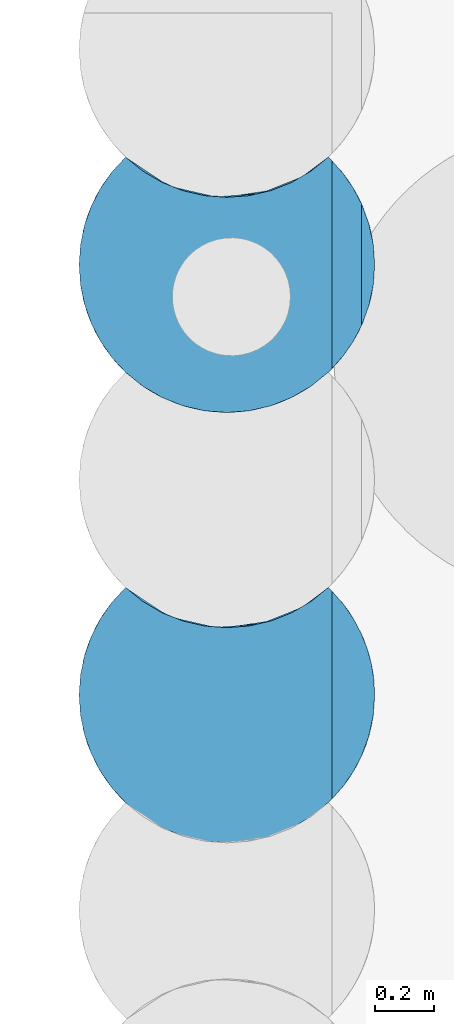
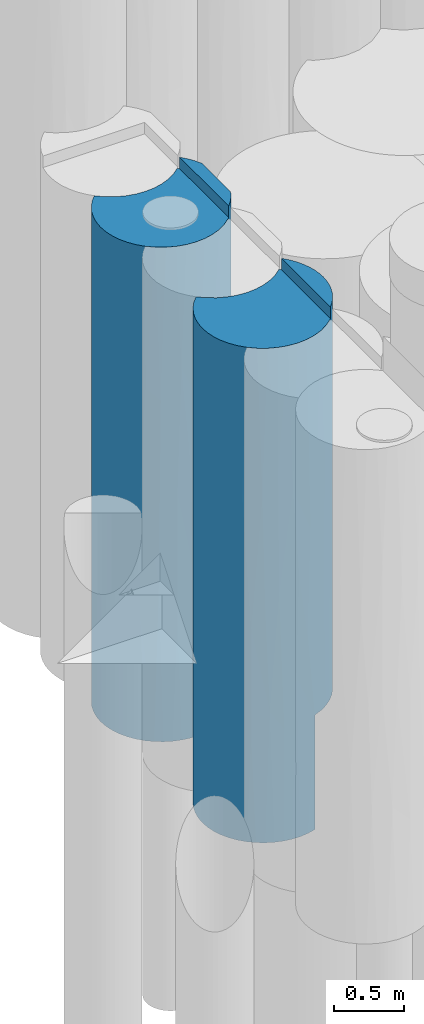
# One storey, part 17 of 104: 2 piles.
"""IFC2X3 building model written with IfcOpenShell, lengths in millimetres."""

from ifc_helpers import new_model, entity, si_unit, converted_unit, derived_unit, direction, frame, origin, place, context, subcontext, project, spatial, faceted_brep, source, transform, mapped, material, element, save


model = new_model("IFC2X3")

# Units and contexts
model_context = context("Model", 3, precision=0.01, world=origin(), true_north=direction((6.12303176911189e-17, 1.0)))
body_context = subcontext(model_context, "Body", "Model", "MODEL_VIEW")
ifc_project = project(units=[si_unit("LENGTHUNIT", "METRE", prefix="MILLI"), si_unit("AREAUNIT", "SQUARE_METRE", prefix="MILLI"), si_unit("VOLUMEUNIT", "CUBIC_METRE"), converted_unit("PLANEANGLEUNIT", "DEGREE", entity("IfcRatioMeasure", 0.0174532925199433), si_unit("PLANEANGLEUNIT", "RADIAN"), dimensions=[0, 0, 0, 0, 0, 0, 0]), si_unit("MASSUNIT", "GRAM", prefix="KILO"), derived_unit("MASSDENSITYUNIT", [(si_unit("MASSUNIT", "GRAM", prefix="KILO"), 1), (si_unit("LENGTHUNIT", "METRE"), -3)]), derived_unit("MOMENTOFINERTIAUNIT", [(si_unit("LENGTHUNIT", "METRE"), 4)]), si_unit("TIMEUNIT", "SECOND"), si_unit("FREQUENCYUNIT", "HERTZ"), si_unit("THERMODYNAMICTEMPERATUREUNIT", "DEGREE_CELSIUS"), derived_unit("THERMALTRANSMITTANCEUNIT", [(si_unit("MASSUNIT", "GRAM", prefix="KILO"), 1), (si_unit("THERMODYNAMICTEMPERATUREUNIT", "KELVIN"), -1), (si_unit("TIMEUNIT", "SECOND"), -3)]), derived_unit("VOLUMETRICFLOWRATEUNIT", [(si_unit("LENGTHUNIT", "METRE"), 3), (si_unit("TIMEUNIT", "SECOND"), -1)]), si_unit("ELECTRICCURRENTUNIT", "AMPERE"), si_unit("ELECTRICVOLTAGEUNIT", "VOLT"), si_unit("POWERUNIT", "WATT"), si_unit("FORCEUNIT", "NEWTON", prefix="KILO"), si_unit("ILLUMINANCEUNIT", "LUX"), si_unit("LUMINOUSFLUXUNIT", "LUMEN"), si_unit("LUMINOUSINTENSITYUNIT", "CANDELA"), derived_unit("USERDEFINED", [(si_unit("MASSUNIT", "GRAM", prefix="KILO"), -1), (si_unit("LENGTHUNIT", "METRE"), -2), (si_unit("TIMEUNIT", "SECOND"), 3), (si_unit("LUMINOUSFLUXUNIT", "LUMEN"), 1)]), derived_unit("LINEARVELOCITYUNIT", [(si_unit("LENGTHUNIT", "METRE"), 1), (si_unit("TIMEUNIT", "SECOND"), -1)]), si_unit("PRESSUREUNIT", "PASCAL"), derived_unit("USERDEFINED", [(si_unit("LENGTHUNIT", "METRE"), -2), (si_unit("MASSUNIT", "GRAM", prefix="KILO"), 1), (si_unit("TIMEUNIT", "SECOND"), -2)]), derived_unit("LINEARFORCEUNIT", [(si_unit("MASSUNIT", "GRAM", prefix="KILO"), 1), (si_unit("LENGTHUNIT", "METRE"), 1), (si_unit("TIMEUNIT", "SECOND"), -2), (si_unit("LENGTHUNIT", "METRE"), -1)]), derived_unit("PLANARFORCEUNIT", [(si_unit("MASSUNIT", "GRAM", prefix="KILO"), 1), (si_unit("LENGTHUNIT", "METRE"), 1), (si_unit("TIMEUNIT", "SECOND"), -2), (si_unit("LENGTHUNIT", "METRE"), -2)])], contexts=[model_context])

# Site, building, storey
site_placement = place(None, origin())
site = spatial("IfcSite", under=ifc_project, at=site_placement, Name="Theater aan de Parade", CompositionType="ELEMENT")
building_placement = place(site_placement, origin())
building = spatial("IfcBuilding", under=site, at=building_placement, Name="Theater aan de Parade", CompositionType="ELEMENT")
storey_placement = place(building_placement, frame((0.0, 0.0, -5520.0)))
storey = spatial("IfcBuildingStorey", under=building, at=storey_placement, Name="-2 kelder", CompositionType="ELEMENT", Elevation=-5520.0)

# Piles
ifc_material = material(Name="00_PBT_MAT_grout")
shared_shape_1 = source(origin(), body_context, "Body", "Brep", [
    faceted_brep([(267.323279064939, 787.875187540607, 0.0), (328.369525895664, 760.56132803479, 0.0), (392.511444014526, 741.63962012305, 0.0), (458.603757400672, 731.44697136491, 0.0), (525.466685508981, 730.165441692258, 0.0), (591.906634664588, 737.819044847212, 0.0), (656.737142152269, 754.27327589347, 0.0), (656.737142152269, 26.2732758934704, 0.0), (591.893916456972, 9.81670940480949, 0.0), (525.446263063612, 2.1644659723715, 0.0), (458.576192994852, 3.44935101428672, 0.0), (392.480890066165, 13.6464515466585, 0.0), (328.341208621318, 32.5717872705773, 0.0), (267.302846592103, 59.886024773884, 0.0), (210.456079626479, 95.1005360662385, 0.0), (158.824861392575, 137.58449553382, 0.0), (112.66511783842, 187.376662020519, 0.0), (73.6828393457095, 242.962424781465, 0.0), (42.5887722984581, 303.320127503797, 0.0), (19.9574025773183, 367.338196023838, 0.0), (6.20806806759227, 433.834531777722, 0.0), (1.5952722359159, 501.595272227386, 0.0), (6.20818208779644, 569.356846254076, 0.0), (19.9555085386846, 635.845553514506, 0.0), (42.5833371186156, 699.857834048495, 0.0), (73.6726367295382, 760.211238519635, 0.0), (112.651085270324, 815.796512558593, 0.0), (158.806707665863, 865.595272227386, 0.0), (210.467388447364, 823.092436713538, 0.0), (996.985169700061, 569.336319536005, 1000.0), (983.239874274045, 635.828194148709, 1000.0), (990.78787753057, 604.990605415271, 2046.74388221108), (956.737142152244, 708.587731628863, 4220.0), (913.164689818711, 785.515356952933, 3409.23226430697), (929.194279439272, 760.745979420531, 4420.0), (981.489086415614, 641.958825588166, 4220.0), (996.543202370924, 572.493413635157, 4220.0), (990.252070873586, 607.49396506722, 3133.13649523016), (946.092881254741, 730.553512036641, 2544.30703933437), (844.383836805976, 865.595272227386, 1780.76895352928), (844.383836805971, 865.595272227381, 2561.53770628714), (844.383836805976, 865.595272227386, 2758.46248732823), (958.757648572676, 704.0861650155, 3361.071600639), (895.702066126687, 809.296157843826, 4420.0), (1001.59527223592, 501.595272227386, 1000.0), (1001.59527223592, 501.595272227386, 3390.76887054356), (956.737142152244, 708.587731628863, 4420.0), (1001.59527223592, 501.595272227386, 2561.53774108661), (960.61285484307, 699.844758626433, 1000.0), (856.737142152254, 853.553014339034, 4320.0), (850.61243060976, 859.627426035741, 4320.0), (844.383836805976, 865.595272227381, 3440.76885314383), (844.383836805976, 865.59527222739, 4320.0), (890.538738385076, 815.797404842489, 1000.0), (844.383836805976, 865.595272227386, 1000.0), (1001.59527223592, 501.595272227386, 4220.0), (929.521362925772, 760.205521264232, 1000.0), (856.737142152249, 853.553014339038, 4420.0), (57.1101078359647, 272.612874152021, 1316.4928070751), (946.091792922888, 272.634919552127, 2497.84558901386), (990.787651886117, 398.198871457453, 2046.72670191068), (990.252071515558, 395.696582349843, 3133.13650739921), (756.716999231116, 71.580267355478, 1930.84616082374), (868.311668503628, 161.714286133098, 1823.04093486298), (847.500261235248, 140.555470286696, 2660.0), (134.89230682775, 161.699795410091, 1057.44780840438), (491.989719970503, 1.68754737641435, 1404.68734990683), (360.094293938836, 22.0356063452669, 1052.824173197), (539.334595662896, 3.02156306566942, 2901.77612704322), (691.143383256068, 38.9166433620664, 2656.11014799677), (670.010199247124, 30.8125066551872, 3485.90902426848), (576.855722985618, 7.29185877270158, 4320.0), (650.397164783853, 24.2505364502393, 4320.0), (996.982304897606, 433.83327793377, 1000.0), (983.235932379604, 367.348207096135, 1000.0), (92.2110047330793, 214.533394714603, 3172.2535251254), (30.1799105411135, 334.959271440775, 3445.3851444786), (30.1799105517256, 334.959271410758, 2516.736242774), (19.9546063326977, 367.348227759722, 4320.0), (6.20831854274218, 433.832700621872, 4320.0), (238.290103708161, 76.5418776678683, 1404.63078403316), (847.500261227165, 140.555470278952, 3490.46984000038), (785.707955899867, 90.1587850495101, 4320.0), (753.846971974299, 69.8904193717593, 3399.95181773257), (112.643720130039, 187.403149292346, 4320.0), (73.6672637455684, 242.988196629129, 4320.0), (787.532221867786, 91.4245018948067, 1000.0), (844.383836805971, 137.595272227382, 1000.0), (890.546344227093, 187.402554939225, 1000.0), (929.522843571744, 242.987473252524, 1000.0), (1.5952722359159, 501.595272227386, 1561.53161059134), (1.5952722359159, 501.595272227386, 2940.77462173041), (674.417605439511, 32.4125347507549, 1827.33519803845), (585.825722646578, 8.74110391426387, 1571.19592302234), (656.73714215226, 26.2732758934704, 1000.0), (42.5805162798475, 303.33924126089, 4320.0), (1.59527223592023, 501.595272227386, 4320.0), (134.892306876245, 161.699795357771, 2159.99586512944), (15.8912046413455, 382.887400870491, 1514.92172740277), (1.5952722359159, 501.595272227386, 2758.45715325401), (389.247683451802, 14.380720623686, 3244.8879435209), (249.34507721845, 69.889540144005, 2978.06322869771), (360.094293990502, 22.0356063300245, 2149.62656965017), (720.547216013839, 52.0843754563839, 4320.0), (163.035278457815, 133.658958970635, 3084.1038830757), (282.645376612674, 52.0833778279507, 4320.0), (217.483581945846, 90.1580990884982, 4320.0), (426.339538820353, 7.29114055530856, 4320.0), (352.796689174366, 24.2495048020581, 4320.0), (501.598192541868, 1.5952722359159, 4320.0), (449.071524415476, 4.36166926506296, 2521.18102248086), (956.73714215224, 294.602812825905, 4220.0), (929.203275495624, 242.459409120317, 4420.0), (925.786159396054, 236.902825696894, 3422.73924696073), (960.609833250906, 303.338789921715, 1000.0), (724.530883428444, 54.0467125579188, 1000.0), (996.54320237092, 430.697130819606, 4220.0), (981.489086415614, 361.231718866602, 4220.0), (844.383836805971, 137.595272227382, 4320.0), (850.591123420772, 143.54234896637, 4320.0), (856.737142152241, 149.637530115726, 4320.0), (72.9794499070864, 244.129785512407, 2273.29113064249), (158.806707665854, 137.595272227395, 4320.0), (895.734515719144, 193.9359529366, 4420.0), (856.737142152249, 149.637530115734, 4420.0), (956.737142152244, 294.602812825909, 4420.0), (297.389215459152, 773.196448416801, 1404.47162504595), (613.937329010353, 742.379445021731, 2653.03150973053), (530.994805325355, 730.460353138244, 2050.76406694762), (463.861374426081, 731.021152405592, 3233.09526452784), (656.737142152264, 754.27327589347, 1000.0), (492.01377186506, 729.687085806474, 1140.51945206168), (619.657892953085, 743.733957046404, 1789.43089182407), (227.11070635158, 811.673960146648, 3337.61357922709), (158.806707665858, 865.595272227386, 2758.4622926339), (158.806707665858, 865.59527222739, 4320.0), (282.655959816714, 780.078223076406, 4320.0), (352.804483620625, 752.247075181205, 4320.0), (317.204383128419, 764.837270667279, 3016.85071920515), (501.595272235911, 729.595272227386, 4320.0), (576.847851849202, 735.290660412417, 4320.0), (613.937328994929, 742.379445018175, 3522.64310373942), (753.834283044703, 797.883005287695, 3166.78787605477), (756.706671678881, 799.574140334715, 2057.42784165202), (425.387004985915, 735.437099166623, 2149.06733909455), (392.465961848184, 741.649790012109, 1269.58220085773), (158.806707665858, 865.595272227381, 1379.23333206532), (158.806707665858, 865.595272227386, 1561.53770736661), (785.695330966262, 818.15006733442, 4320.0), (240.874329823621, 802.951872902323, 2287.63634853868), (426.342692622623, 735.290660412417, 4320.0), (720.534584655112, 780.078223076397, 4320.0), (724.52149740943, 782.042037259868, 1000.0), (650.386060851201, 752.247075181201, 4320.0), (787.521122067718, 819.416764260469, 1000.0), (335.032355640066, 758.154083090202, 2177.10511890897), (217.495213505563, 818.150067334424, 4320.0), (112.651806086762, 815.797404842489, 4320.0), (73.6691815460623, 760.205521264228, 4320.0), (42.5776896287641, 699.844758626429, 4320.0), (19.9506701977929, 635.828194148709, 4320.0), (6.20537477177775, 569.336319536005, 4320.0), (15.4611002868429, 618.529300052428, 1993.01692752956), (30.1816558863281, 668.236210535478, 982.63536132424), (82.1945983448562, 773.814071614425, 2804.88372013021), (57.1024527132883, 730.562810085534, 1803.15273010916), (73.0275224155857, 759.140770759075, 926.606949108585), (30.1762796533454, 668.221000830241, 3003.46839526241)], [[[0, 1, 2, 3, 4, 5, 6, 7, 8, 9, 10, 11, 12, 13, 14, 15, 16, 17, 18, 19, 20, 21, 22, 23, 24, 25, 26, 27, 28]], [[29, 30, 31]], [[32, 33, 34]], [[35, 36, 37]], [[38, 39, 40, 41]], [[35, 37, 42]], [[37, 31, 38]], [[42, 38, 33]], [[33, 43, 34]], [[44, 29, 31]], [[36, 45, 37]], [[46, 32, 34]], [[38, 41, 33]], [[35, 42, 32]], [[31, 47, 44]], [[31, 30, 48]], [[48, 38, 31]], [[31, 37, 47]], [[49, 41, 50]], [[50, 41, 51, 52]], [[53, 54, 39]], [[42, 33, 32]], [[45, 36, 55]], [[38, 48, 56]], [[53, 39, 38]], [[57, 43, 49]], [[33, 49, 43]], [[49, 33, 41]], [[45, 47, 37]], [[53, 38, 56]], [[37, 38, 42]], [[18, 17, 58]], [[59, 60, 61]], [[62, 63, 64]], [[65, 58, 17]], [[10, 66, 67]], [[68, 69, 70]], [[71, 70, 72]], [[19, 18, 58]], [[65, 16, 15]], [[73, 60, 74]], [[67, 12, 11]], [[75, 76, 77]], [[76, 78, 79]], [[66, 10, 9]], [[13, 80, 14]], [[81, 82, 83]], [[13, 12, 67]], [[83, 62, 64]], [[83, 69, 62]], [[80, 13, 67]], [[84, 85, 75]], [[63, 86, 87]], [[63, 88, 89]], [[83, 70, 69]], [[21, 20, 90]], [[79, 91, 76]], [[92, 93, 94]], [[76, 85, 95]], [[77, 76, 91]], [[96, 91, 79]], [[68, 66, 93]], [[80, 97, 65]], [[76, 95, 78]], [[98, 91, 99, 90]], [[75, 85, 76]], [[100, 101, 102]], [[60, 73, 44]], [[103, 70, 83]], [[104, 84, 75]], [[97, 104, 75]], [[100, 105, 101]], [[105, 106, 101]], [[100, 107, 108]], [[14, 80, 65]], [[68, 109, 100]], [[19, 58, 98]], [[110, 68, 100]], [[111, 112, 113]], [[102, 67, 66]], [[68, 92, 69]], [[94, 8, 7]], [[100, 108, 105]], [[93, 9, 8]], [[114, 74, 60]], [[92, 115, 62]], [[104, 97, 101]], [[63, 59, 64]], [[92, 62, 69]], [[62, 86, 63]], [[68, 71, 109]], [[47, 61, 60]], [[80, 101, 97]], [[67, 11, 10]], [[45, 116, 61]], [[89, 114, 59]], [[101, 80, 102]], [[64, 59, 113]], [[115, 86, 62]], [[65, 17, 16]], [[89, 59, 63]], [[117, 61, 116]], [[109, 107, 100]], [[64, 113, 81]], [[59, 61, 113]], [[64, 81, 83]], [[82, 103, 83]], [[44, 47, 60]], [[58, 77, 98]], [[70, 103, 72]], [[118, 81, 119]], [[88, 63, 87]], [[119, 81, 120]], [[71, 68, 70]], [[82, 81, 118]], [[45, 55, 116]], [[61, 111, 113]], [[121, 75, 77]], [[104, 106, 122]], [[65, 15, 14]], [[120, 123, 124]], [[111, 61, 117]], [[120, 81, 123]], [[125, 112, 111]], [[58, 65, 97]], [[59, 114, 60]], [[113, 123, 81]], [[75, 121, 97]], [[19, 98, 20]], [[123, 113, 112]], [[8, 94, 93]], [[100, 102, 110]], [[80, 67, 102]], [[115, 92, 94]], [[68, 93, 92]], [[93, 66, 9]], [[106, 104, 101]], [[84, 104, 122]], [[91, 98, 77]], [[98, 90, 20]], [[77, 58, 121]], [[58, 97, 121]], [[102, 66, 110]], [[66, 68, 110]], [[61, 47, 45]], [[57, 124, 123, 112, 125, 46, 34, 43]], [[126, 0, 28]], [[127, 128, 129]], [[130, 131, 132]], [[133, 134, 135]], [[136, 137, 138]], [[139, 140, 141]], [[142, 143, 127]], [[144, 131, 145]], [[127, 141, 142]], [[145, 131, 3]], [[28, 27, 146, 147]], [[131, 4, 3]], [[143, 40, 39, 54]], [[148, 51, 142]], [[126, 147, 149]], [[136, 138, 133]], [[129, 144, 138]], [[1, 0, 126]], [[150, 129, 137]], [[144, 128, 131]], [[129, 139, 141]], [[128, 132, 131]], [[5, 131, 130]], [[141, 127, 129]], [[144, 129, 128]], [[5, 130, 6]], [[40, 143, 142]], [[149, 133, 138]], [[138, 137, 129]], [[142, 151, 148]], [[127, 143, 132]], [[1, 145, 2]], [[132, 143, 152]], [[150, 139, 129]], [[153, 141, 140]], [[4, 131, 5]], [[154, 152, 143]], [[141, 151, 142]], [[138, 144, 155]], [[133, 156, 136]], [[148, 52, 51]], [[127, 132, 128]], [[153, 151, 141]], [[155, 144, 145]], [[54, 154, 143]], [[147, 126, 28]], [[152, 130, 132]], [[126, 145, 1]], [[2, 145, 3]], [[156, 133, 135]], [[134, 133, 149]], [[134, 149, 147]], [[155, 126, 149]], [[138, 155, 149]], [[126, 155, 145]], [[142, 51, 41, 40]], [[136, 156, 135, 157, 158, 159, 160, 161, 96, 79, 78, 95, 85, 84, 122, 106, 105, 108, 107, 109, 71, 72, 103, 82, 118, 119, 120, 49, 50, 52, 148, 151, 153, 140, 139, 150, 137]], [[57, 49, 120, 124]], [[115, 94, 130, 152, 154, 54, 53, 56, 48, 30, 29, 44, 73, 74, 114, 89, 88, 87, 86]], [[94, 7, 6, 130]], [[157, 135, 134]], [[99, 162, 90]], [[163, 90, 162]], [[163, 24, 23]], [[164, 146, 165]], [[26, 166, 146]], [[134, 164, 157]], [[166, 24, 163]], [[25, 24, 166]], [[90, 163, 22]], [[161, 99, 91, 96]], [[165, 146, 166]], [[157, 164, 158]], [[22, 163, 23]], [[161, 167, 99]], [[99, 167, 162]], [[167, 160, 159]], [[167, 164, 165]], [[22, 21, 90]], [[25, 166, 26]], [[159, 158, 167]], [[163, 165, 166]], [[27, 26, 146]], [[165, 163, 162]], [[165, 162, 167]], [[161, 160, 167]], [[158, 164, 167]], [[164, 134, 147, 146]], [[116, 55, 36, 35, 32, 111, 117]], [[111, 32, 46, 125]]]),
])
pile_1_placement = place(storey_placement, frame((34348.2628578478, 25156.7721311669, -3840.0)))
element("IfcPile", 1, at=pile_1_placement, inside=storey, material=ifc_material, Name="17_PBT_SFO_grondkering_rond:Ø1000 (grondkering)", ObjectType="17_PBT_SFO_grondkering_rond:Ø1000 (grondkering)", PredefinedType="NOTDEFINED", context=body_context, shape_type="MappedRepresentation", body=[
    mapped(shared_shape_1, transform((0.0, 0.0, 0.0), scale=1.0)),
])
shared_shape_2 = source(origin(), body_context, "Body", "Brep", [
    faceted_brep([(267.323279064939, 787.875187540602, 0.0), (328.369525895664, 760.561328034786, 0.0), (392.511444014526, 741.639620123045, 0.0), (458.603757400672, 731.446971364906, 0.0), (525.466685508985, 730.165441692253, 0.0), (591.906634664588, 737.819044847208, 0.0), (656.737142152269, 754.273275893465, 0.0), (656.737142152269, 26.2732758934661, 0.0), (591.893916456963, 9.81670940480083, 0.0), (525.446263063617, 2.16446597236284, 0.0), (458.576192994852, 3.44935101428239, 0.0), (392.48089006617, 13.6464515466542, 0.0), (328.341208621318, 32.571787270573, 0.0), (267.302846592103, 59.886024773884, 0.0), (210.456079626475, 95.1005360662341, 0.0), (158.824861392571, 137.58449553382, 0.0), (112.665117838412, 187.376662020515, 0.0), (73.6828393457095, 242.962424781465, 0.0), (42.5887722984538, 303.320127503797, 0.0), (19.9574025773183, 367.33819602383, 0.0), (6.20806806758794, 433.834531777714, 0.0), (1.5952722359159, 501.595272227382, 0.0), (6.20818208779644, 569.356846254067, 0.0), (19.9555085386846, 635.845553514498, 0.0), (42.5833371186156, 699.857834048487, 0.0), (73.6726367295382, 760.211238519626, 0.0), (112.651085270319, 815.796512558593, 0.0), (158.806707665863, 865.595272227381, 0.0), (210.467388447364, 823.092436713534, 0.0), (991.242487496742, 602.815846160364, 2006.45902320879), (1001.59527223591, 501.595272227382, 1929.23113047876), (996.985169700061, 569.336319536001, 1000.0), (913.156606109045, 785.527074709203, 3327.23332800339), (895.696231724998, 809.303630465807, 4420.0), (929.184436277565, 760.762219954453, 4420.0), (990.243317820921, 607.534346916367, 4420.0), (983.899355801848, 633.439009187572, 3514.82525543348), (976.183148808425, 658.968546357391, 4420.0), (890.538738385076, 815.797404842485, 1000.0), (844.38383680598, 865.595272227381, 1879.23144085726), (910.974780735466, 788.663936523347, 2100.92310348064), (964.338954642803, 690.984512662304, 1856.7946550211), (967.115021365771, 684.054481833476, 2715.39360249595), (956.721961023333, 708.621109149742, 4420.0), (929.521362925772, 760.205521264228, 1000.0), (983.239874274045, 635.828194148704, 1000.0), (960.61285484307, 699.844758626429, 1000.0), (998.746655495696, 554.891633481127, 4420.0), (1001.59527223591, 501.595272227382, 2858.46226095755), (1001.59527223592, 501.595272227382, 1000.0), (1001.59527223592, 501.595272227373, 2561.53770592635), (1001.59527223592, 501.595272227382, 4420.0), (1001.59527223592, 501.595272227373, 3490.76885296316), (856.737142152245, 853.553014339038, 4320.0), (844.383836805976, 865.595272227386, 2758.46248732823), (850.612430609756, 859.627426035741, 4320.0), (844.383836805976, 865.595272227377, 3440.76885314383), (844.383836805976, 865.595272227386, 4320.0), (856.737142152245, 853.553014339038, 4420.0), (844.383836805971, 865.595272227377, 2561.53770628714), (844.383836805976, 865.595272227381, 1000.0), (92.229424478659, 214.507127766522, 1147.66514306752), (756.716999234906, 71.5802673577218, 2127.8476289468), (847.500261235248, 140.555470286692, 2660.0), (773.850595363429, 82.2183069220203, 3075.23491992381), (613.946874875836, 14.3816462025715, 2653.04434120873), (685.998096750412, 36.842006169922, 3378.12995657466), (183.922448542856, 115.481329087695, 896.569046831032), (1.59527223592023, 501.595272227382, 780.765805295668), (30.1799105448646, 334.959271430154, 3172.2623508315), (15.6721335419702, 383.787363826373, 2135.2760226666), (57.1101078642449, 272.612874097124, 2159.98001368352), (6.20831854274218, 433.832700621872, 4320.0), (1.59527223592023, 501.595272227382, 4320.0), (1.59527223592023, 501.595272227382, 3539.23419470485), (297.364882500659, 45.2073364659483, 1140.77905443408), (785.707955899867, 90.1587850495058, 4320.0), (847.500261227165, 140.555470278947, 3490.46984000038), (396.975736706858, 12.6630143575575, 977.482354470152), (590.044586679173, 9.48073395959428, 1720.74555483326), (678.663093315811, 33.9982376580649, 1825.30536615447), (491.989719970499, 1.68754737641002, 1404.68734990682), (910.979077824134, 214.532735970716, 2032.30571629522), (828.027578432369, 122.857962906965, 1835.28340057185), (943.737259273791, 268.120512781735, 2943.12314598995), (183.922448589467, 115.481329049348, 1844.40062878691), (724.530883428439, 54.0467125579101, 1000.0), (217.483581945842, 90.1580990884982, 4320.0), (249.34507721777, 69.8895401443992, 3011.9164439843), (282.64537661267, 52.0833778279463, 4320.0), (650.397164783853, 24.2505364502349, 4320.0), (597.984208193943, 10.9740608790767, 3491.42509570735), (360.094293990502, 22.0356063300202, 2149.62656965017), (463.861239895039, 3.02116258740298, 3045.28631760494), (352.507962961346, 24.3396025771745, 3202.96434966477), (30.1851156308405, 334.944546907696, 1147.6705195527), (73.450512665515, 243.347203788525, 3048.8141598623), (112.955926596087, 187.0170482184, 2041.49451290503), (19.9546063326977, 367.348227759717, 4320.0), (42.5805162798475, 303.339241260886, 4320.0), (73.6672637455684, 242.988196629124, 4320.0), (134.878616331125, 161.714566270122, 3024.30690318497), (960.609833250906, 303.338789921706, 1000.0), (983.235932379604, 367.34820709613, 1000.0), (973.010548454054, 334.959029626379, 2062.36905191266), (514.093834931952, 1.75151070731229, 2277.43812838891), (112.643720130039, 187.403149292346, 4320.0), (158.806707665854, 137.595272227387, 4320.0), (996.982304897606, 433.833277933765, 1000.0), (352.79668917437, 24.2495048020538, 4320.0), (426.339538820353, 7.29114055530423, 4320.0), (656.73714215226, 26.2732758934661, 1000.0), (1.5952722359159, 501.595272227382, 2758.45715325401), (1.59527223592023, 501.595272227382, 2159.99118356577), (1.5952722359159, 501.595272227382, 1561.5428467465), (501.598192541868, 1.59527223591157, 4320.0), (956.737101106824, 294.602722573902, 4420.0), (929.19822685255, 242.451078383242, 4420.0), (787.532221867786, 91.4245018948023, 1000.0), (844.383836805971, 137.595272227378, 1000.0), (990.248985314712, 395.682342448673, 3260.79199228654), (266.895442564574, 60.1023618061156, 2022.60037910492), (996.541206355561, 430.683197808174, 4420.0), (929.522843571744, 242.987473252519, 1000.0), (890.546344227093, 187.402554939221, 1000.0), (981.484856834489, 361.217259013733, 4420.0), (576.855722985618, 7.29185877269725, 4320.0), (720.54721601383, 52.0843754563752, 4320.0), (850.591123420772, 143.542348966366, 4320.0), (856.737142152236, 149.637530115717, 4320.0), (844.383836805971, 137.595272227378, 4320.0), (895.731526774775, 193.932123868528, 4420.0), (856.737142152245, 149.637530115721, 4420.0), (297.389215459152, 773.196448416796, 1404.47162504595), (613.937329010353, 742.379445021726, 2653.03150973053), (530.994805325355, 730.46035313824, 2050.76406694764), (463.861374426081, 731.021152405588, 3233.09526452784), (656.737142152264, 754.273275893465, 1000.0), (492.01377186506, 729.68708580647, 1140.51945206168), (619.657892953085, 743.7339570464, 1789.43089182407), (227.11070635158, 811.673960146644, 3337.61357922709), (158.806707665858, 865.595272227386, 2758.4622926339), (158.806707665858, 865.595272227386, 4320.0), (282.655959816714, 780.078223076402, 4320.0), (352.804483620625, 752.247075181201, 4320.0), (317.204383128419, 764.837270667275, 3016.85071920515), (501.595272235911, 729.595272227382, 4320.0), (576.847851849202, 735.290660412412, 4320.0), (613.937328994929, 742.37944501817, 3522.64310373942), (753.834283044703, 797.88300528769, 3166.78787605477), (756.706671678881, 799.57414033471, 2057.42784165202), (425.387004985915, 735.437099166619, 2149.06733909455), (392.465961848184, 741.649790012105, 1269.58220085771), (158.806707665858, 865.595272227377, 1379.23333206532), (158.806707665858, 865.595272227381, 1561.53770736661), (785.695330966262, 818.150067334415, 4320.0), (240.874329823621, 802.951872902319, 2287.63634853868), (426.342692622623, 735.290660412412, 4320.0), (720.534584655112, 780.078223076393, 4320.0), (724.52149740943, 782.042037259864, 1000.0), (650.386060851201, 752.247075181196, 4320.0), (787.521122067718, 819.416764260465, 1000.0), (335.032355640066, 758.154083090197, 2177.10511890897), (217.495213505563, 818.15006733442, 4320.0), (112.651806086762, 815.797404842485, 4320.0), (73.6691815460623, 760.205521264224, 4320.0), (42.5776896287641, 699.844758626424, 4320.0), (19.9506701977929, 635.828194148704, 4320.0), (6.20537477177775, 569.336319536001, 4320.0), (15.4611002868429, 618.529300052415, 1993.01692752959), (30.1816558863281, 668.236210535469, 982.635361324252), (82.1945983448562, 773.81407161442, 2804.88372013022), (57.1024527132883, 730.562810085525, 1803.15273010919), (73.0275224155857, 759.140770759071, 926.606949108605), (30.1762796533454, 668.221000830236, 3003.46839526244)], [[[0, 1, 2, 3, 4, 5, 6, 7, 8, 9, 10, 11, 12, 13, 14, 15, 16, 17, 18, 19, 20, 21, 22, 23, 24, 25, 26, 27, 28]], [[29, 30, 31]], [[32, 33, 34]], [[35, 36, 37]], [[38, 39, 40]], [[41, 42, 29]], [[36, 43, 37]], [[44, 40, 41]], [[45, 46, 41]], [[29, 31, 45]], [[36, 47, 48]], [[30, 49, 31]], [[47, 36, 35]], [[36, 42, 32]], [[36, 29, 42]], [[29, 48, 50, 30]], [[40, 42, 41]], [[47, 51, 52, 48]], [[40, 32, 42]], [[53, 54, 55]], [[55, 54, 56, 57]], [[32, 40, 54]], [[36, 32, 43]], [[41, 46, 44]], [[54, 53, 32]], [[29, 36, 48]], [[58, 33, 53]], [[32, 53, 33]], [[40, 39, 59, 54]], [[43, 32, 34]], [[39, 38, 60]], [[40, 44, 38]], [[45, 41, 29]], [[61, 18, 17]], [[62, 63, 64]], [[65, 62, 66]], [[16, 67, 61]], [[20, 68, 21]], [[69, 70, 71]], [[62, 64, 66]], [[72, 73, 74]], [[13, 75, 67]], [[76, 64, 77]], [[78, 75, 12]], [[65, 79, 80]], [[63, 77, 64]], [[81, 10, 9]], [[12, 75, 13]], [[67, 14, 13]], [[82, 63, 83]], [[78, 12, 11]], [[67, 15, 14]], [[84, 63, 82]], [[61, 67, 85]], [[86, 62, 80]], [[87, 88, 89]], [[90, 91, 66]], [[74, 70, 69]], [[92, 93, 94]], [[18, 95, 19]], [[71, 96, 69]], [[61, 97, 71]], [[95, 70, 68]], [[98, 69, 99]], [[75, 85, 67]], [[99, 96, 100]], [[85, 88, 101]], [[102, 103, 104]], [[105, 81, 79]], [[74, 69, 72]], [[106, 101, 107]], [[94, 89, 88]], [[101, 87, 107]], [[88, 87, 101]], [[95, 20, 19]], [[94, 88, 92]], [[50, 104, 108]], [[109, 94, 110]], [[79, 81, 111]], [[78, 92, 75]], [[70, 74, 112, 113, 114, 68]], [[111, 8, 7]], [[104, 103, 108]], [[91, 115, 93]], [[116, 117, 84]], [[65, 66, 91]], [[93, 115, 110]], [[95, 61, 71]], [[86, 118, 62]], [[83, 118, 119]], [[81, 8, 111]], [[104, 50, 120]], [[75, 121, 85]], [[67, 16, 15]], [[122, 120, 52]], [[102, 82, 123]], [[8, 81, 9]], [[102, 104, 82]], [[18, 61, 95]], [[96, 106, 100]], [[82, 124, 123]], [[83, 63, 62]], [[121, 75, 92]], [[122, 125, 120]], [[91, 90, 126]], [[66, 127, 90]], [[108, 49, 30, 50]], [[17, 16, 61]], [[127, 64, 76]], [[127, 66, 64]], [[83, 124, 82]], [[128, 77, 129]], [[77, 128, 130]], [[76, 77, 130]], [[129, 131, 132]], [[129, 77, 131]], [[93, 65, 91]], [[105, 92, 81]], [[82, 104, 84]], [[84, 131, 77]], [[20, 95, 68]], [[77, 63, 84]], [[117, 131, 84]], [[70, 95, 71]], [[51, 122, 52]], [[116, 120, 125]], [[120, 116, 84]], [[96, 99, 69]], [[72, 69, 98]], [[10, 81, 78]], [[120, 84, 104]], [[97, 61, 85]], [[91, 126, 115]], [[85, 101, 97]], [[96, 97, 101]], [[110, 94, 93]], [[89, 94, 109]], [[80, 79, 111]], [[105, 65, 93]], [[65, 105, 79]], [[92, 105, 93]], [[86, 80, 111]], [[65, 80, 62]], [[10, 78, 11]], [[92, 78, 81]], [[92, 88, 121]], [[88, 85, 121]], [[120, 50, 48, 52]], [[97, 96, 71]], [[96, 101, 106]], [[118, 83, 62]], [[83, 119, 124]], [[35, 37, 43, 34, 33, 58, 132, 131, 117, 116, 125, 122, 51, 47]], [[133, 0, 28]], [[134, 135, 136]], [[137, 138, 139]], [[140, 141, 142]], [[143, 144, 145]], [[146, 147, 148]], [[149, 150, 134]], [[151, 138, 152]], [[134, 148, 149]], [[152, 138, 3]], [[28, 27, 153, 154]], [[138, 4, 3]], [[150, 59, 39, 60]], [[155, 56, 149]], [[133, 154, 156]], [[143, 145, 140]], [[136, 151, 145]], [[1, 0, 133]], [[157, 136, 144]], [[151, 135, 138]], [[136, 146, 148]], [[135, 139, 138]], [[5, 138, 137]], [[148, 134, 136]], [[151, 136, 135]], [[5, 137, 6]], [[59, 150, 149]], [[156, 140, 145]], [[145, 144, 136]], [[149, 158, 155]], [[134, 150, 139]], [[1, 152, 2]], [[139, 150, 159]], [[157, 146, 136]], [[160, 148, 147]], [[4, 138, 5]], [[161, 159, 150]], [[148, 158, 149]], [[145, 151, 162]], [[140, 163, 143]], [[155, 57, 56]], [[134, 139, 135]], [[160, 158, 148]], [[162, 151, 152]], [[60, 161, 150]], [[154, 133, 28]], [[159, 137, 139]], [[133, 152, 1]], [[2, 152, 3]], [[163, 140, 142]], [[141, 140, 156]], [[141, 156, 154]], [[162, 133, 156]], [[145, 162, 156]], [[133, 162, 152]], [[149, 56, 54, 59]], [[143, 163, 142, 164, 165, 166, 167, 168, 73, 72, 98, 99, 100, 106, 107, 87, 89, 109, 110, 115, 126, 90, 127, 76, 130, 128, 129, 53, 55, 57, 155, 158, 160, 147, 146, 157, 144]], [[58, 53, 129, 132]], [[86, 111, 137, 159, 161, 60, 38, 44, 46, 45, 31, 49, 108, 103, 102, 123, 124, 119, 118]], [[111, 7, 6, 137]], [[164, 142, 141]], [[169, 114, 113, 112]], [[170, 114, 169]], [[170, 24, 23]], [[171, 153, 172]], [[26, 173, 153]], [[141, 171, 164]], [[173, 24, 170]], [[25, 24, 173]], [[114, 170, 22]], [[168, 112, 74, 73]], [[172, 153, 173]], [[164, 171, 165]], [[22, 170, 23]], [[168, 174, 112]], [[112, 174, 169]], [[174, 167, 166]], [[174, 171, 172]], [[22, 21, 68, 114]], [[25, 173, 26]], [[166, 165, 174]], [[170, 172, 173]], [[27, 26, 153]], [[172, 170, 169]], [[172, 169, 174]], [[168, 167, 174]], [[165, 171, 174]], [[171, 141, 154, 153]]]),
])
pile_2_placement = place(storey_placement, frame((34348.2628578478, 23700.7721311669, -3840.0)))
element("IfcPile", 2, at=pile_2_placement, inside=storey, material=ifc_material, Name="17_PBT_SFO_grondkering_rond:Ø1000 (grondkering)", ObjectType="17_PBT_SFO_grondkering_rond:Ø1000 (grondkering)", PredefinedType="NOTDEFINED", context=body_context, shape_type="MappedRepresentation", body=[
    mapped(shared_shape_2, transform((0.0, 0.0, 0.0), scale=1.0)),
])

save(model, "model.ifc")
